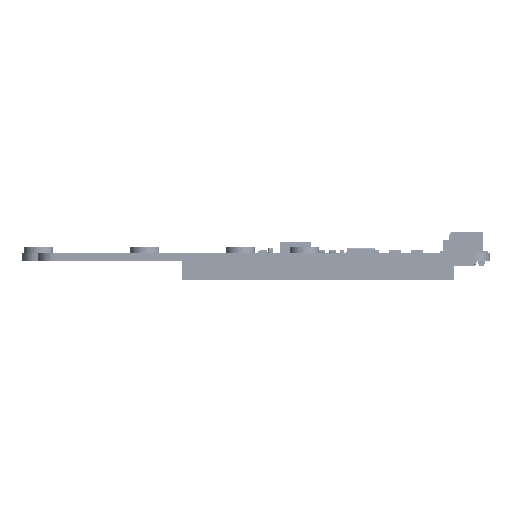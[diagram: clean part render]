
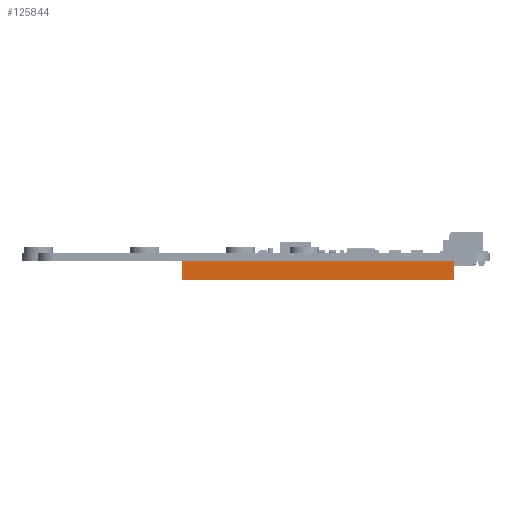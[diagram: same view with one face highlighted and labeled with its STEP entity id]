
A CAD part, front view. The second image highlights one B-rep face of the part: STEP entity #125844.
In plain terms, the highlighted planar face has unit normal (0, -1, 0) as drawn and (0, 0, 1) by its records, which use the part's own axes.
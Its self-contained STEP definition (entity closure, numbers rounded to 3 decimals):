
#107557=DIRECTION('',(-1.,0.,0.));
#107558=VECTOR('',#107557,51.3);
#107559=CARTESIAN_POINT('',(25.65,0.4,2.6));
#107560=LINE('',#107559,#107558);
#108291=DIRECTION('',(0.,-1.,0.));
#108292=VECTOR('',#108291,4.6);
#108293=CARTESIAN_POINT('',(25.65,5.,2.6));
#108294=LINE('',#108293,#108292);
#108319=DIRECTION('',(-1.,0.,0.));
#108320=VECTOR('',#108319,51.3);
#108321=CARTESIAN_POINT('',(25.65,5.,2.6));
#108322=LINE('',#108321,#108320);
#108331=DIRECTION('',(0.,1.,0.));
#108332=VECTOR('',#108331,4.6);
#108333=CARTESIAN_POINT('',(-25.65,0.4,2.6));
#108334=LINE('',#108333,#108332);
#121686=CARTESIAN_POINT('',(25.65,0.4,2.6));
#121687=VERTEX_POINT('',#121686);
#121688=CARTESIAN_POINT('',(-25.65,0.4,2.6));
#121689=VERTEX_POINT('',#121688);
#123604=CARTESIAN_POINT('',(25.65,5.,2.6));
#123605=VERTEX_POINT('',#123604);
#123606=CARTESIAN_POINT('',(-25.65,5.,2.6));
#123607=VERTEX_POINT('',#123606);
#125832=CARTESIAN_POINT('',(-25.65,0.4,2.6));
#125833=DIRECTION('',(0.,0.,1.));
#125834=DIRECTION('',(0.,-1.,0.));
#125835=AXIS2_PLACEMENT_3D('',#125832,#125833,#125834);
#125836=PLANE('',#125835);
#125837=ORIENTED_EDGE('',*,*,#125776,.T.);
#125838=ORIENTED_EDGE('',*,*,#124087,.T.);
#125840=ORIENTED_EDGE('',*,*,#125839,.T.);
#125841=ORIENTED_EDGE('',*,*,#124671,.F.);
#125842=EDGE_LOOP('',(#125837,#125838,#125840,#125841));
#125843=FACE_OUTER_BOUND('',#125842,.F.);
#125844=ADVANCED_FACE('',(#125843),#125836,.T.);
#124087=EDGE_CURVE('',#121687,#121689,#107560,.T.);
#124671=EDGE_CURVE('',#123605,#123607,#108322,.T.);
#125776=EDGE_CURVE('',#123605,#121687,#108294,.T.);
#125839=EDGE_CURVE('',#121689,#123607,#108334,.T.);
